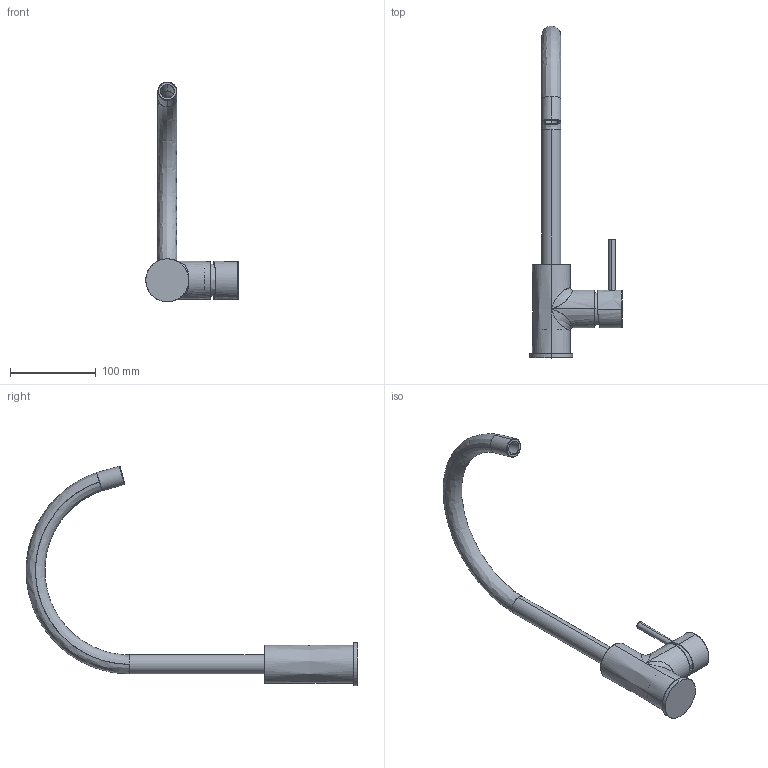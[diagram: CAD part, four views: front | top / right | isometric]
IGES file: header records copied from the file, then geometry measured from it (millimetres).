
Start section: SolidWorks IGES file using analytic representation for surfaces
Global section: file name: D:\STREAMLINE\Axus tap\axus pin mixer range\axus pin Iges\AX016720 Axus Pin Kitchen Mixer.IGS; native system: SolidWorks 2020; preprocessor: SolidWorks 2020; author: david; date: 201105.190344; units: millimetre
Bounding box: 107.5 x 386 x 255.46 mm (x, y, z)
Surface area: 119047.6 mm2 (no closed solid volume)
Topology: 0 solids, 0 shells, 250 faces, 4047 edges, 4033 vertices
Faces by surface type: bspline 126, revolution 124
